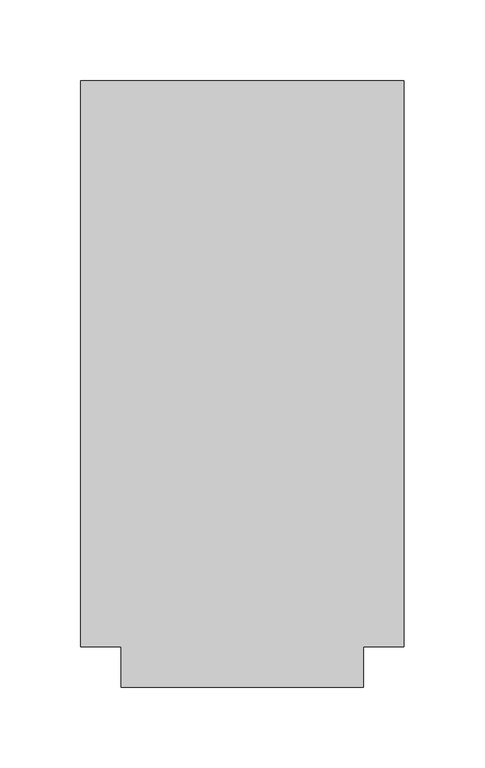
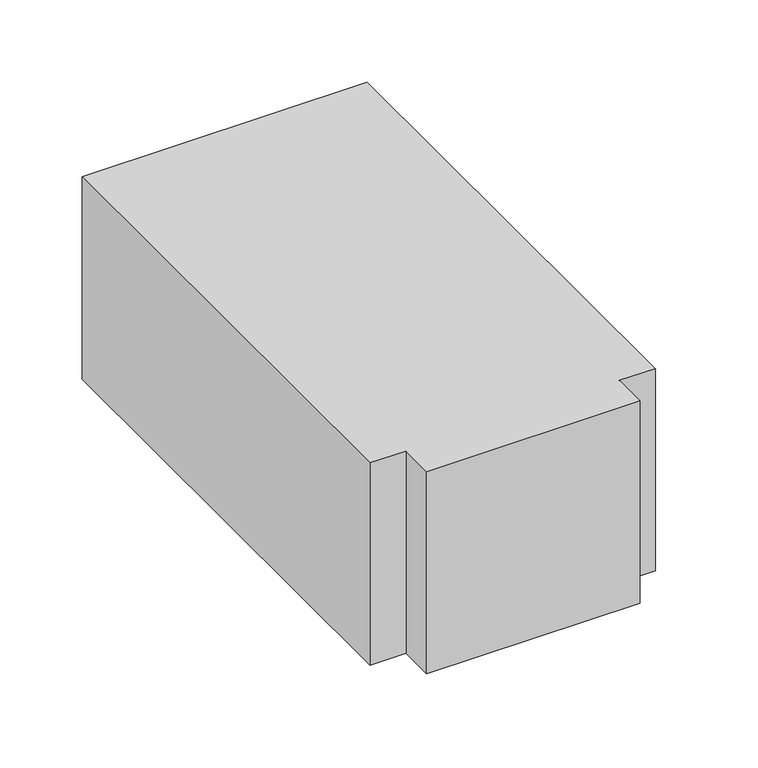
"""IFC4 building model written with IfcOpenShell, lengths in millimetres: duct fitting geometry, M_Te rectangular : Estándar."""

from ifc_helpers import new_model, si_unit, frame, origin, place, context, project, spatial, polyline, outline, extrude, source, transform, mapped, element, save


def duct_fitting_d6011ccf(model_context):
    return source(origin(), model_context, "Body", "SweptSolid", [
        extrude(outline(polyline([(-100.0, -175.0), (-100.0, 175.0), (100.0, 175.0), (100.0, -175.0), (75.0, -175.0), (75.0, -200.0), (-75.0, -200.0), (-75.0, -175.0), (-100.0, -175.0)])), frame((0.0, 0.0, -75.0), z_axis=(0.0, 0.0, 1.0), x_axis=(1.0, 0.0, 0.0)), (0.0, 0.0, 1.0), 150.0),
    ])


if __name__ == "__main__":
    model = new_model("IFC4")
    model_context = context("Model", 3, world=origin())
    ifc_project = project(units=[si_unit("LENGTHUNIT", "METRE", prefix="MILLI")], contexts=[model_context])
    site = spatial("IfcSite", under=ifc_project)
    building = spatial("IfcBuilding", under=site)
    placement = place(None, origin())
    duct_fitting_shape = duct_fitting_d6011ccf(model_context)
    element("IfcDuctFitting", 1, ObjectType="M_Te rectangular : Estándar", at=placement, inside=building, context=model_context, shape_type="MappedRepresentation", body=[
        mapped(duct_fitting_shape, transform((0.0, 0.0, 0.0), x_axis=(1.0, 0.0, 0.0), y_axis=(0.0, 1.0, 0.0), z_axis=(0.0, 0.0, 1.0))),
    ])
    save(model, "model.ifc")
